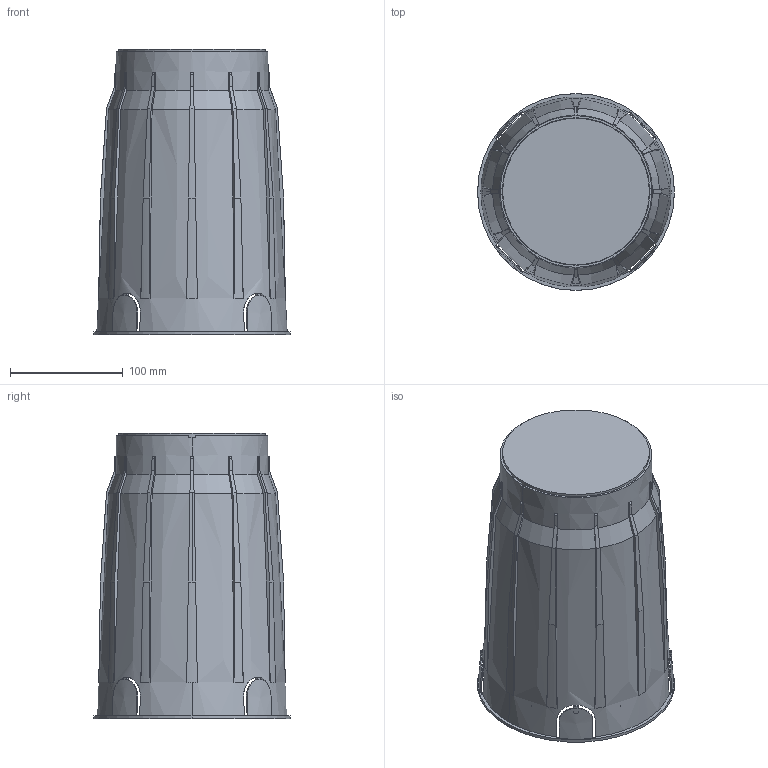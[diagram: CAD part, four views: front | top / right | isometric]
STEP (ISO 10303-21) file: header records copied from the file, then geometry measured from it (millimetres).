
FILE_DESCRIPTION (( 'STEP AP214' ), '1' );
FILE_NAME ('a_TERRA MINI TUTTOVETRO COB SKIN assy.STEP', '2022-09-16T07:54:24', ( '' ), ( '' ), 'SwSTEP 2.0', 'SolidWorks 2022', '' );
FILE_SCHEMA (( 'AUTOMOTIVE_DESIGN' ));
Length unit declared in the file: millimetre
Products named in the file (1): a_TERRA MINI TUTTOVETRO COB SKIN assy
Bounding box: 175 x 175 x 253.76 mm (x, y, z)
Surface area: 342744.3 mm2 (no closed solid volume)
Topology: 0 solids, 9 shells, 329 faces, 1278 edges, 943 vertices
Faces by surface type: plane 125, cone 107, bspline 49, cylinder 44, torus 4
Full cylindrical faces by diameter (mm): 7 x1, 13 x1, 14 x1, 22.3 x1, 130.4 x1
Entity records: 19720 total; most frequent: CARTESIAN_POINT 6460, ORIENTED_EDGE 2120, DIRECTION 1661, EDGE_CURVE 1266, VERTEX_POINT 939, AXIS2_PLACEMENT_3D 582, VECTOR 497, LINE 497
